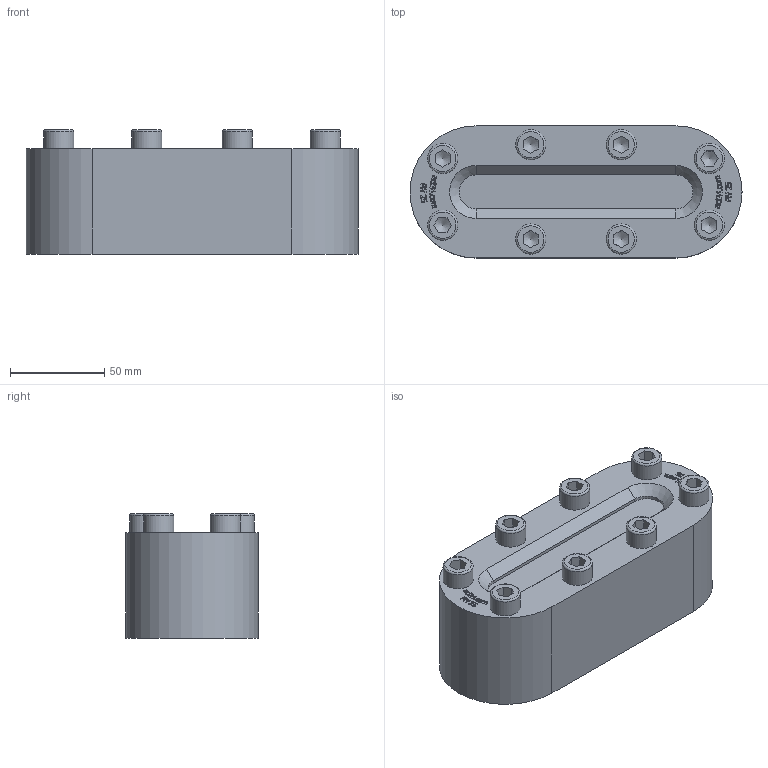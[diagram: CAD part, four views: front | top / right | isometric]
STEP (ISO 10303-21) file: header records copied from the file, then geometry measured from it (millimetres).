
FILE_DESCRIPTION(/* description */ (''),/* implementation_level */ '2;1');
FILE_NAME(/* name */ 'W:\Konstruktion_ACI\337\STEP\337.stp',/* time_stamp */ '2022-03-21T17:04:12+01:00',/* author */ ('Travnicek'),/* organization */ ('ACI Industriearmaturen'),/* preprocessor_version */ 'ST-DEVELOPER v16.1',/* originating_system */ 'Autodesk Inventor 2016',/* authorisation */ '');
FILE_SCHEMA (('AUTOMOTIVE_DESIGN { 1 0 10303 214 3 1 1 }'));
Length unit declared in the file: centimetre
Products named in the file (1): 337
Bounding box: 176 x 70 x 65.9 mm (x, y, z)
Volume: 582575 mm3; surface area: 58397 mm2
Topology: 1 solids, 1 shells, 520 faces, 1396 edges, 924 vertices
Faces by surface type: plane 282, bspline 206, cylinder 14, cone 10, torus 8
Full cylindrical faces by diameter (mm): 16 x8
Entity records: 17463 total; most frequent: CARTESIAN_POINT 5575, ORIENTED_EDGE 2728, DIRECTION 1572, EDGE_CURVE 1364, VERTEX_POINT 916, LINE 866, VECTOR 866, EDGE_LOOP 590
